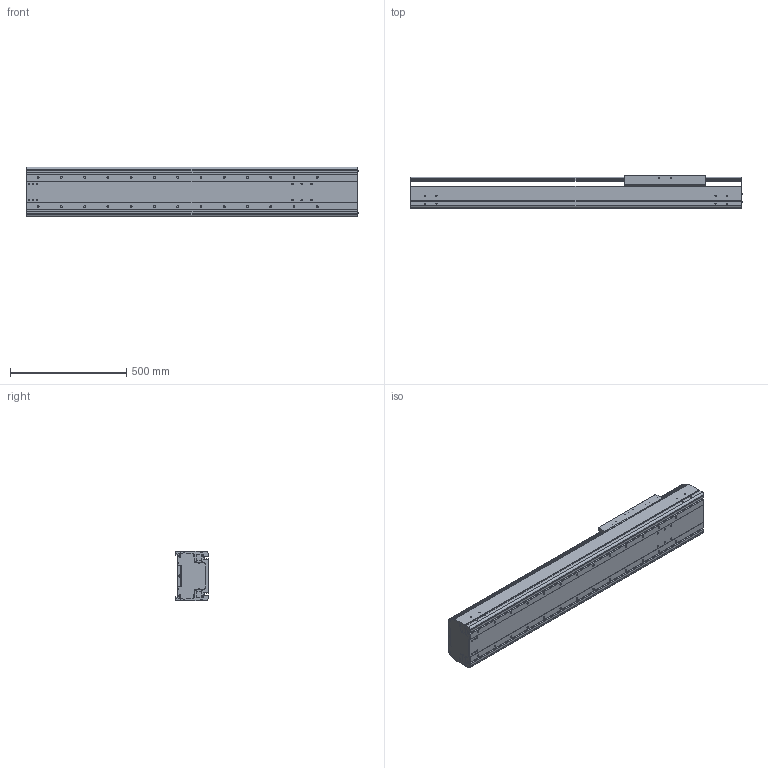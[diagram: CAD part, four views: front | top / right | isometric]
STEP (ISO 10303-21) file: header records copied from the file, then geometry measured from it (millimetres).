
FILE_DESCRIPTION((''),'2;1');
FILE_NAME('BE60J-ST-L_B-85_IGS_PRT','2017-06-18T',(' '),(''),'PRO/ENGINEER BY PARAMETRIC TECHNOLOGY CORPORATION, 2015030','PRO/ENGINEER BY PARAMETRIC TECHNOLOGY CORPORATION, 2015030','');
FILE_SCHEMA(('CONFIG_CONTROL_DESIGN'));
Length unit declared in the file: millimetre
Products named in the file (1): BE60J-ST-L_B-85_IGS_PRT
Bounding box: 1427.4 x 140 x 214 mm (x, y, z)
Volume: 11650728.3 mm3; surface area: 3067270.3 mm2
Topology: 2 solids, 32 shells, 1131 faces, 2998 edges, 1929 vertices
Faces by surface type: plane 527, cylinder 496, cone 60, torus 24, sphere 24
Entity records: 35441 total; most frequent: CARTESIAN_POINT 6646, DIRECTION 6170, ORIENTED_EDGE 5768, EDGE_CURVE 2940, AXIS2_PLACEMENT_3D 2216, VERTEX_POINT 1928, VECTOR 1738, LINE 1738
